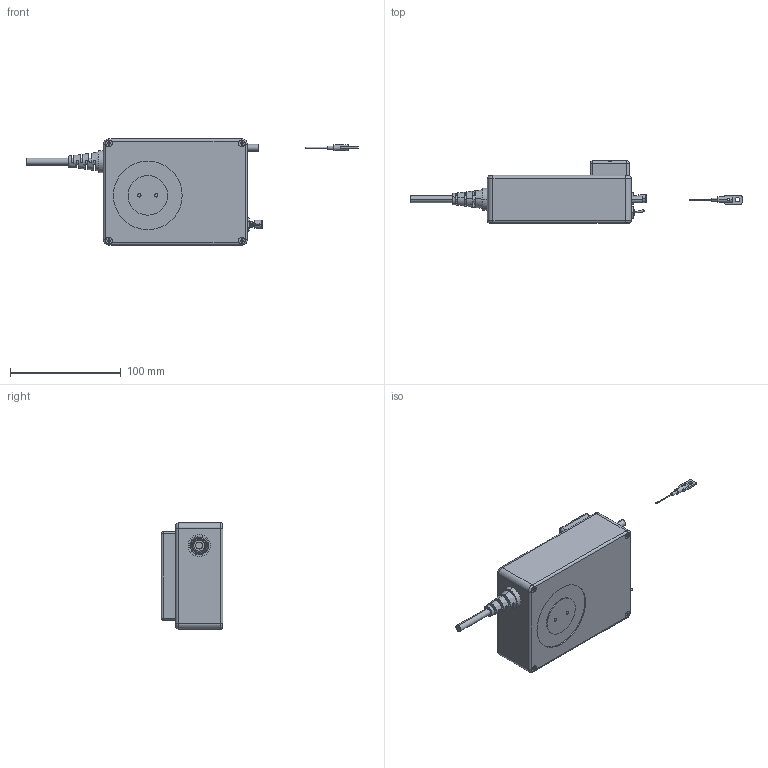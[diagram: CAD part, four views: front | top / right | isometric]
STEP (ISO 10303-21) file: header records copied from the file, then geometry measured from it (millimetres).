
FILE_DESCRIPTION (( 'STEP AP214' ), '1' );
FILE_NAME ('DMR-100B_Assem1.STEP', '2024-07-19T02:33:36', ( '' ), ( '' ), 'SwSTEP 2.0', 'SolidWorks 2023', '' );
FILE_SCHEMA (( 'AUTOMOTIVE_DESIGN' ));
Length unit declared in the file: millimetre
Products named in the file (8): Flat Head SCREW M3 X6 MM; ナット_Part3; プッシュボタン_Part4; DMR100B_Part6; DMR-100B_Assem1; トルグスイッチ_Part5; DMR100B_Part1; DMR100B_Part2
Assembly tree (17 placements, depth 2):
  DMR-100B_Assem1
    DMR100B_Part2
    DMR100B_Part1
    ナット_Part3  x2
    トルグスイッチ_Part5
    プッシュボタン_Part4
    Flat Head SCREW M3 X6 MM  x10
    DMR100B_Part6
Bounding box: 300.04 x 56 x 96 mm (x, y, z)
Volume: 574340.5 mm3; surface area: 78722.2 mm2
Topology: 17 solids, 17 shells, 913 faces, 2464 edges, 1652 vertices
Faces by surface type: plane 389, cylinder 382, cone 76, bspline 52, torus 10, sphere 4
Entity records: 23628 total; most frequent: CARTESIAN_POINT 5077, DIRECTION 3969, ORIENTED_EDGE 3774, EDGE_CURVE 1887, AXIS2_PLACEMENT_3D 1465, VERTEX_POINT 1246, LINE 1039, VECTOR 1039
